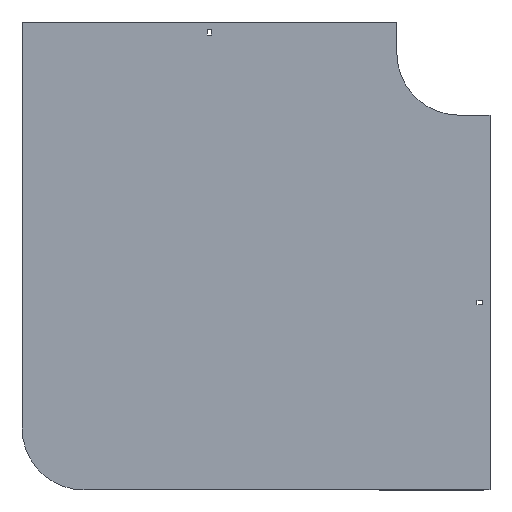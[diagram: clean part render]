
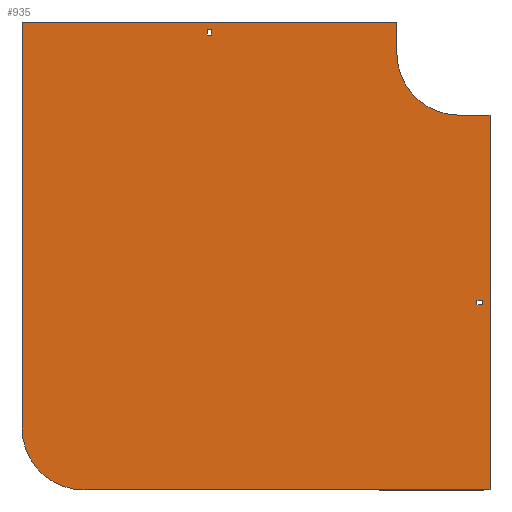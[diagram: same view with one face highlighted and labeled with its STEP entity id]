
A CAD part, front view. The second image highlights one B-rep face of the part: STEP entity #935.
In plain terms, the highlighted planar face has unit normal (0, -1, 0).
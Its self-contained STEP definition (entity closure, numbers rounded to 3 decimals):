
#4 = VERTEX_POINT ( 'NONE', #195 ) ;
#8 = ORIENTED_EDGE ( 'NONE', *, *, #913, .F. ) ;
#14 = LINE ( 'NONE', #1310, #478 ) ;
#39 = DIRECTION ( 'NONE',  ( 0., 0., -1. ) ) ;
#58 = VERTEX_POINT ( 'NONE', #81 ) ;
#73 = EDGE_LOOP ( 'NONE', ( #129, #1374, #126, #8, #816, #1163, #616, #124 ) ) ;
#81 = CARTESIAN_POINT ( 'NONE',  ( -405.25, 0., 29. ) ) ;
#84 = CARTESIAN_POINT ( 'NONE',  ( 0., 0., 0. ) ) ;
#101 = ORIENTED_EDGE ( 'NONE', *, *, #262, .F. ) ;
#106 = VERTEX_POINT ( 'NONE', #1304 ) ;
#110 = VECTOR ( 'NONE', #117, 1000. ) ;
#116 = VECTOR ( 'NONE', #896, 1000. ) ;
#117 = DIRECTION ( 'NONE',  ( 1., 0., 0. ) ) ;
#124 = ORIENTED_EDGE ( 'NONE', *, *, #1158, .F. ) ;
#125 = DIRECTION ( 'NONE',  ( 0., 0., -1. ) ) ;
#126 = ORIENTED_EDGE ( 'NONE', *, *, #1392, .F. ) ;
#129 = ORIENTED_EDGE ( 'NONE', *, *, #159, .F. ) ;
#133 = VECTOR ( 'NONE', #437, 1000. ) ;
#138 = ORIENTED_EDGE ( 'NONE', *, *, #890, .T. ) ;
#142 = LINE ( 'NONE', #444, #1190 ) ;
#144 = ORIENTED_EDGE ( 'NONE', *, *, #1193, .F. ) ;
#159 = EDGE_CURVE ( 'NONE', #1146, #1224, #442, .T. ) ;
#181 = EDGE_CURVE ( 'NONE', #925, #910, #14, .T. ) ;
#182 = VECTOR ( 'NONE', #943, 1000. ) ;
#189 = VERTEX_POINT ( 'NONE', #264 ) ;
#195 = CARTESIAN_POINT ( 'NONE',  ( -604., 0., -704. ) ) ;
#197 = CARTESIAN_POINT ( 'NONE',  ( -704., 0., 50. ) ) ;
#204 = VECTOR ( 'NONE', #538, 1000. ) ;
#213 = VECTOR ( 'NONE', #125, 1000. ) ;
#215 = VERTEX_POINT ( 'NONE', #875 ) ;
#216 = LINE ( 'NONE', #1287, #380 ) ;
#218 = VERTEX_POINT ( 'NONE', #784 ) ;
#225 = LINE ( 'NONE', #851, #133 ) ;
#238 = LINE ( 'NONE', #448, #250 ) ;
#250 = VECTOR ( 'NONE', #565, 1000. ) ;
#261 = VERTEX_POINT ( 'NONE', #662 ) ;
#262 = EDGE_CURVE ( 'NONE', #218, #189, #142, .T. ) ;
#264 = CARTESIAN_POINT ( 'NONE',  ( 29., 0., -398.75 ) ) ;
#273 = CARTESIAN_POINT ( 'NONE',  ( -405.25, 0., 29. ) ) ;
#277 = CARTESIAN_POINT ( 'NONE',  ( 0., 0., 0. ) ) ;
#292 = LINE ( 'NONE', #1170, #760 ) ;
#293 = PLANE ( 'NONE',  #402 ) ;
#319 = LINE ( 'NONE', #1043, #182 ) ;
#321 = CARTESIAN_POINT ( 'NONE',  ( 29., 0., -405.25 ) ) ;
#338 = DIRECTION ( 'NONE',  ( -1., 0., 0. ) ) ;
#380 = VECTOR ( 'NONE', #1274, 1000. ) ;
#402 = AXIS2_PLACEMENT_3D ( 'NONE', #277, #1243, #619 ) ;
#437 = DIRECTION ( 'NONE',  ( 0., 0., 1. ) ) ;
#442 = LINE ( 'NONE', #1083, #110 ) ;
#444 = CARTESIAN_POINT ( 'NONE',  ( 29., 0., -398.75 ) ) ;
#448 = CARTESIAN_POINT ( 'NONE',  ( -405.25, 0., 29. ) ) ;
#453 = EDGE_CURVE ( 'NONE', #106, #925, #744, .T. ) ;
#465 = CARTESIAN_POINT ( 'NONE',  ( -398.75, 0., 38. ) ) ;
#478 = VECTOR ( 'NONE', #39, 1000. ) ;
#492 = FACE_BOUND ( 'NONE', #508, .T. ) ;
#508 = EDGE_LOOP ( 'NONE', ( #144, #997, #552, #101 ) ) ;
#511 = DIRECTION ( 'NONE',  ( 0., -1., 0. ) ) ;
#518 = AXIS2_PLACEMENT_3D ( 'NONE', #1079, #679, #969 ) ;
#525 = VERTEX_POINT ( 'NONE', #718 ) ;
#538 = DIRECTION ( 'NONE',  ( 1., 0., 0. ) ) ;
#550 = EDGE_CURVE ( 'NONE', #189, #525, #1290, .T. ) ;
#552 = ORIENTED_EDGE ( 'NONE', *, *, #550, .F. ) ;
#561 = LINE ( 'NONE', #1321, #1137 ) ;
#565 = DIRECTION ( 'NONE',  ( -1., 0., 0. ) ) ;
#616 = ORIENTED_EDGE ( 'NONE', *, *, #974, .F. ) ;
#617 = EDGE_CURVE ( 'NONE', #727, #1021, #1275, .T. ) ;
#618 = CARTESIAN_POINT ( 'NONE',  ( 50., 0., -704. ) ) ;
#619 = DIRECTION ( 'NONE',  ( 0., 0., -1. ) ) ;
#623 = DIRECTION ( 'NONE',  ( 1., 0., 0. ) ) ;
#647 = FACE_BOUND ( 'NONE', #865, .T. ) ;
#662 = CARTESIAN_POINT ( 'NONE',  ( -704., 0., -604. ) ) ;
#669 = AXIS2_PLACEMENT_3D ( 'NONE', #84, #511, #1350 ) ;
#679 = DIRECTION ( 'NONE',  ( 0., 1., 0. ) ) ;
#685 = CARTESIAN_POINT ( 'NONE',  ( 0., 0., -100. ) ) ;
#698 = VECTOR ( 'NONE', #723, 1000. ) ;
#718 = CARTESIAN_POINT ( 'NONE',  ( 29., 0., -405.25 ) ) ;
#723 = DIRECTION ( 'NONE',  ( 1., 0., 0. ) ) ;
#727 = VERTEX_POINT ( 'NONE', #685 ) ;
#744 = LINE ( 'NONE', #1175, #698 ) ;
#751 = ORIENTED_EDGE ( 'NONE', *, *, #1109, .T. ) ;
#757 = DIRECTION ( 'NONE',  ( -1., 0., 0. ) ) ;
#760 = VECTOR ( 'NONE', #623, 1000. ) ;
#767 = CARTESIAN_POINT ( 'NONE',  ( 50., 0., -100. ) ) ;
#784 = CARTESIAN_POINT ( 'NONE',  ( 38., 0., -398.75 ) ) ;
#786 = CARTESIAN_POINT ( 'NONE',  ( -398.75, 0., 29. ) ) ;
#809 = ORIENTED_EDGE ( 'NONE', *, *, #181, .T. ) ;
#814 = DIRECTION ( 'NONE',  ( 0., 0., 1. ) ) ;
#816 = ORIENTED_EDGE ( 'NONE', *, *, #849, .F. ) ;
#849 = EDGE_CURVE ( 'NONE', #1021, #1323, #866, .T. ) ;
#851 = CARTESIAN_POINT ( 'NONE',  ( -704., 0., -604. ) ) ;
#855 = CIRCLE ( 'NONE', #518, 100. ) ;
#865 = EDGE_LOOP ( 'NONE', ( #751, #1091, #809, #138 ) ) ;
#866 = LINE ( 'NONE', #767, #213 ) ;
#875 = CARTESIAN_POINT ( 'NONE',  ( -100., 0., 0. ) ) ;
#876 = CARTESIAN_POINT ( 'NONE',  ( -100., 0., 50. ) ) ;
#890 = EDGE_CURVE ( 'NONE', #910, #58, #238, .T. ) ;
#896 = DIRECTION ( 'NONE',  ( 0., 0., -1. ) ) ;
#910 = VERTEX_POINT ( 'NONE', #786 ) ;
#913 = EDGE_CURVE ( 'NONE', #1323, #4, #561, .T. ) ;
#925 = VERTEX_POINT ( 'NONE', #465 ) ;
#935 = ADVANCED_FACE ( 'NONE', ( #647, #1082, #492 ), #293, .T. ) ;
#943 = DIRECTION ( 'NONE',  ( 0., 0., 1. ) ) ;
#969 = DIRECTION ( 'NONE',  ( 0., 0., 1. ) ) ;
#974 = EDGE_CURVE ( 'NONE', #215, #727, #1100, .T. ) ;
#980 = VECTOR ( 'NONE', #814, 1000. ) ;
#997 = ORIENTED_EDGE ( 'NONE', *, *, #1281, .F. ) ;
#1021 = VERTEX_POINT ( 'NONE', #1266 ) ;
#1043 = CARTESIAN_POINT ( 'NONE',  ( 38., 0., -405.25 ) ) ;
#1070 = CARTESIAN_POINT ( 'NONE',  ( 0., 0., -100. ) ) ;
#1079 = CARTESIAN_POINT ( 'NONE',  ( -604., 0., -604. ) ) ;
#1082 = FACE_OUTER_BOUND ( 'NONE', #73, .T. ) ;
#1083 = CARTESIAN_POINT ( 'NONE',  ( -704., 0., 50. ) ) ;
#1091 = ORIENTED_EDGE ( 'NONE', *, *, #453, .T. ) ;
#1100 = CIRCLE ( 'NONE', #669, 100. ) ;
#1109 = EDGE_CURVE ( 'NONE', #58, #106, #1247, .T. ) ;
#1137 = VECTOR ( 'NONE', #338, 1000. ) ;
#1146 = VERTEX_POINT ( 'NONE', #197 ) ;
#1158 = EDGE_CURVE ( 'NONE', #1224, #215, #216, .T. ) ;
#1163 = ORIENTED_EDGE ( 'NONE', *, *, #617, .F. ) ;
#1170 = CARTESIAN_POINT ( 'NONE',  ( 29., 0., -405.25 ) ) ;
#1175 = CARTESIAN_POINT ( 'NONE',  ( -405.25, 0., 38. ) ) ;
#1190 = VECTOR ( 'NONE', #757, 1000. ) ;
#1193 = EDGE_CURVE ( 'NONE', #1333, #218, #319, .T. ) ;
#1224 = VERTEX_POINT ( 'NONE', #876 ) ;
#1243 = DIRECTION ( 'NONE',  ( 0., -1., 0. ) ) ;
#1247 = LINE ( 'NONE', #273, #980 ) ;
#1260 = EDGE_CURVE ( 'NONE', #261, #1146, #225, .T. ) ;
#1266 = CARTESIAN_POINT ( 'NONE',  ( 50., 0., -100. ) ) ;
#1274 = DIRECTION ( 'NONE',  ( 0., 0., -1. ) ) ;
#1275 = LINE ( 'NONE', #1070, #204 ) ;
#1281 = EDGE_CURVE ( 'NONE', #525, #1333, #292, .T. ) ;
#1287 = CARTESIAN_POINT ( 'NONE',  ( -100., 0., 50. ) ) ;
#1290 = LINE ( 'NONE', #321, #116 ) ;
#1304 = CARTESIAN_POINT ( 'NONE',  ( -405.25, 0., 38. ) ) ;
#1310 = CARTESIAN_POINT ( 'NONE',  ( -398.75, 0., 29. ) ) ;
#1321 = CARTESIAN_POINT ( 'NONE',  ( 50., 0., -704. ) ) ;
#1323 = VERTEX_POINT ( 'NONE', #618 ) ;
#1333 = VERTEX_POINT ( 'NONE', #1394 ) ;
#1350 = DIRECTION ( 'NONE',  ( 0., 0., -1. ) ) ;
#1374 = ORIENTED_EDGE ( 'NONE', *, *, #1260, .F. ) ;
#1392 = EDGE_CURVE ( 'NONE', #4, #261, #855, .T. ) ;
#1394 = CARTESIAN_POINT ( 'NONE',  ( 38., 0., -405.25 ) ) ;
